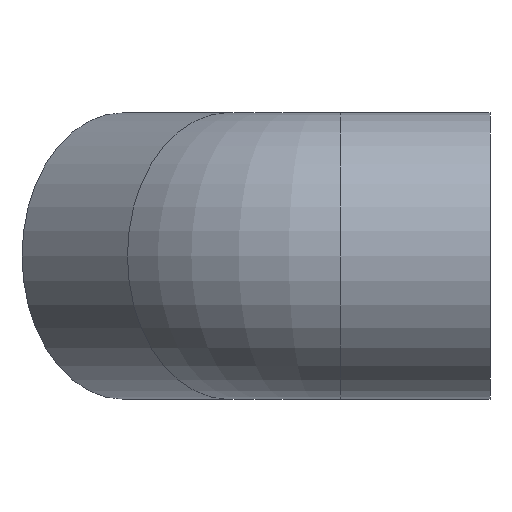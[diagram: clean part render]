
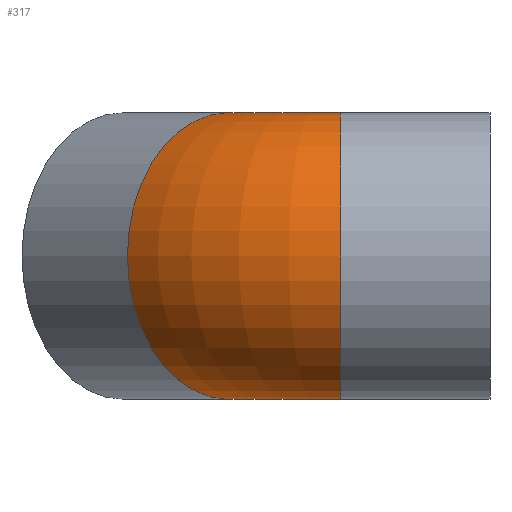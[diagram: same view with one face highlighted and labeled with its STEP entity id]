
A CAD part, left-side view. The second image highlights one B-rep face of the part: STEP entity #317.
In plain terms, the highlighted toroidal (fillet/blend) face has major radius 15.5 mm and minor radius 14 mm.
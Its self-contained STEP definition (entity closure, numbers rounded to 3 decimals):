
#16=TOROIDAL_SURFACE('',#341,15.5,14.);
#21=FACE_BOUND('',#92,.T.);
#65=FACE_OUTER_BOUND('',#91,.T.);
#91=EDGE_LOOP('',(#273));
#92=EDGE_LOOP('',(#274));
#108=CIRCLE('',#340,14.);
#109=CIRCLE('',#342,14.);
#160=VERTEX_POINT('',#7384);
#161=VERTEX_POINT('',#7387);
#202=EDGE_CURVE('',#160,#160,#108,.T.);
#203=EDGE_CURVE('',#161,#161,#109,.T.);
#273=ORIENTED_EDGE('',*,*,#202,.F.);
#274=ORIENTED_EDGE('',*,*,#203,.T.);
#317=ADVANCED_FACE('',(#65,#21),#16,.T.);
#340=AXIS2_PLACEMENT_3D('',#7385,#389,#390);
#341=AXIS2_PLACEMENT_3D('',#7386,#391,#392);
#342=AXIS2_PLACEMENT_3D('',#7388,#393,#394);
#389=DIRECTION('center_axis',(0.707,0.707,0.));
#390=DIRECTION('ref_axis',(0.707,-0.707,0.));
#391=DIRECTION('center_axis',(0.,0.,-1.));
#392=DIRECTION('ref_axis',(-1.,0.,0.));
#393=DIRECTION('center_axis',(0.,1.,0.));
#394=DIRECTION('ref_axis',(1.,0.,0.));
#7384=CARTESIAN_POINT('',(-5.36,35.439,0.));
#7385=CARTESIAN_POINT('Origin',(4.54,25.54,0.));
#7386=CARTESIAN_POINT('Origin',(15.5,14.58,0.));
#7387=CARTESIAN_POINT('',(-14.,14.58,0.));
#7388=CARTESIAN_POINT('Origin',(0.,14.58,0.));
